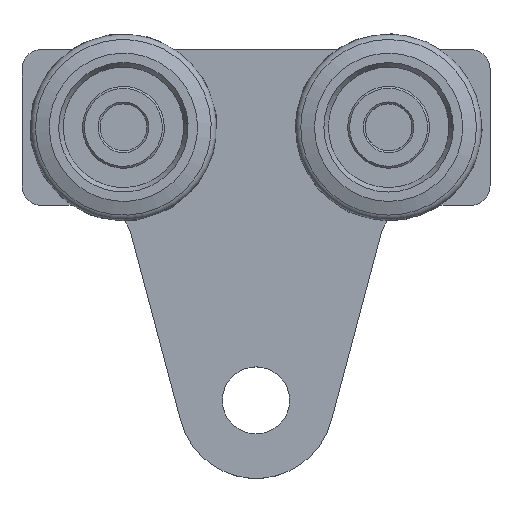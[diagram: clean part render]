
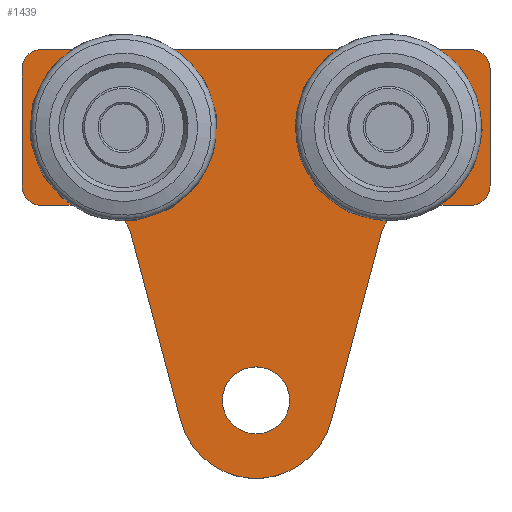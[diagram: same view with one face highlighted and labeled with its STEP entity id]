
A CAD part, top view. The second image highlights one B-rep face of the part: STEP entity #1439.
In plain terms, the highlighted planar face has unit normal (0, 0, 1).
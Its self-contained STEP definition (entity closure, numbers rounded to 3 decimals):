
#109=LINE('',#2122,#215);
#114=LINE('',#2136,#220);
#119=LINE('',#2154,#225);
#123=LINE('',#2165,#229);
#127=LINE('',#2178,#233);
#131=LINE('',#2190,#237);
#135=LINE('',#2202,#241);
#139=LINE('',#2214,#245);
#143=LINE('',#2226,#249);
#147=LINE('',#2238,#253);
#151=LINE('',#2249,#257);
#215=VECTOR('',#1683,3.36);
#220=VECTOR('',#1696,3.36);
#225=VECTOR('',#1715,3.36);
#229=VECTOR('',#1727,3.36);
#233=VECTOR('',#1739,13.313);
#237=VECTOR('',#1751,49.374);
#241=VECTOR('',#1763,49.374);
#245=VECTOR('',#1775,13.313);
#249=VECTOR('',#1787,30.);
#253=VECTOR('',#1799,110.);
#257=VECTOR('',#1811,30.);
#333=PLANE('',#1555);
#372=FACE_BOUND('',#512,.T.);
#373=FACE_BOUND('',#513,.T.);
#374=FACE_BOUND('',#514,.T.);
#420=FACE_OUTER_BOUND('',#511,.T.);
#511=EDGE_LOOP('',(#1117,#1118,#1119,#1120,#1121,#1122,#1123,#1124,#1125,
#1126,#1127,#1128,#1129,#1130));
#512=EDGE_LOOP('',(#1131));
#513=EDGE_LOOP('',(#1132,#1133,#1134,#1135));
#514=EDGE_LOOP('',(#1136,#1137,#1138,#1139));
#598=CIRCLE('',#1508,8.6);
#600=CIRCLE('',#1512,9.1);
#602=CIRCLE('',#1516,6.15);
#604=CIRCLE('',#1519,6.15);
#606=CIRCLE('',#1523,9.1);
#608=CIRCLE('',#1527,5.);
#610=CIRCLE('',#1531,10.);
#612=CIRCLE('',#1535,20.);
#614=CIRCLE('',#1539,10.);
#616=CIRCLE('',#1543,5.);
#618=CIRCLE('',#1547,5.);
#620=CIRCLE('',#1551,5.);
#671=VERTEX_POINT('',#2115);
#673=VERTEX_POINT('',#2120);
#674=VERTEX_POINT('',#2121);
#677=VERTEX_POINT('',#2129);
#679=VERTEX_POINT('',#2135);
#681=VERTEX_POINT('',#2144);
#682=VERTEX_POINT('',#2145);
#685=VERTEX_POINT('',#2153);
#687=VERTEX_POINT('',#2159);
#689=VERTEX_POINT('',#2168);
#690=VERTEX_POINT('',#2169);
#693=VERTEX_POINT('',#2177);
#695=VERTEX_POINT('',#2183);
#697=VERTEX_POINT('',#2189);
#699=VERTEX_POINT('',#2195);
#701=VERTEX_POINT('',#2201);
#703=VERTEX_POINT('',#2207);
#705=VERTEX_POINT('',#2213);
#707=VERTEX_POINT('',#2219);
#709=VERTEX_POINT('',#2225);
#711=VERTEX_POINT('',#2231);
#713=VERTEX_POINT('',#2237);
#715=VERTEX_POINT('',#2243);
#808=EDGE_CURVE('',#671,#671,#598,.T.);
#810=EDGE_CURVE('',#673,#674,#109,.T.);
#814=EDGE_CURVE('',#674,#677,#600,.T.);
#817=EDGE_CURVE('',#677,#679,#114,.T.);
#820=EDGE_CURVE('',#679,#673,#602,.T.);
#822=EDGE_CURVE('',#681,#682,#604,.T.);
#826=EDGE_CURVE('',#682,#685,#119,.T.);
#829=EDGE_CURVE('',#685,#687,#606,.T.);
#832=EDGE_CURVE('',#687,#681,#123,.T.);
#834=EDGE_CURVE('',#689,#690,#608,.T.);
#838=EDGE_CURVE('',#690,#693,#127,.T.);
#841=EDGE_CURVE('',#693,#695,#610,.T.);
#844=EDGE_CURVE('',#695,#697,#131,.T.);
#847=EDGE_CURVE('',#697,#699,#612,.T.);
#850=EDGE_CURVE('',#699,#701,#135,.T.);
#853=EDGE_CURVE('',#701,#703,#614,.T.);
#856=EDGE_CURVE('',#703,#705,#139,.T.);
#859=EDGE_CURVE('',#705,#707,#616,.T.);
#862=EDGE_CURVE('',#707,#709,#143,.T.);
#865=EDGE_CURVE('',#709,#711,#618,.T.);
#868=EDGE_CURVE('',#711,#713,#147,.T.);
#871=EDGE_CURVE('',#713,#715,#620,.T.);
#874=EDGE_CURVE('',#715,#689,#151,.T.);
#1117=ORIENTED_EDGE('',*,*,#834,.F.);
#1118=ORIENTED_EDGE('',*,*,#874,.F.);
#1119=ORIENTED_EDGE('',*,*,#871,.F.);
#1120=ORIENTED_EDGE('',*,*,#868,.F.);
#1121=ORIENTED_EDGE('',*,*,#865,.F.);
#1122=ORIENTED_EDGE('',*,*,#862,.F.);
#1123=ORIENTED_EDGE('',*,*,#859,.F.);
#1124=ORIENTED_EDGE('',*,*,#856,.F.);
#1125=ORIENTED_EDGE('',*,*,#853,.F.);
#1126=ORIENTED_EDGE('',*,*,#850,.F.);
#1127=ORIENTED_EDGE('',*,*,#847,.F.);
#1128=ORIENTED_EDGE('',*,*,#844,.F.);
#1129=ORIENTED_EDGE('',*,*,#841,.F.);
#1130=ORIENTED_EDGE('',*,*,#838,.F.);
#1131=ORIENTED_EDGE('',*,*,#808,.T.);
#1132=ORIENTED_EDGE('',*,*,#810,.T.);
#1133=ORIENTED_EDGE('',*,*,#814,.T.);
#1134=ORIENTED_EDGE('',*,*,#817,.T.);
#1135=ORIENTED_EDGE('',*,*,#820,.T.);
#1136=ORIENTED_EDGE('',*,*,#822,.T.);
#1137=ORIENTED_EDGE('',*,*,#826,.T.);
#1138=ORIENTED_EDGE('',*,*,#829,.T.);
#1139=ORIENTED_EDGE('',*,*,#832,.T.);
#1439=ADVANCED_FACE('',(#420,#372,#373,#374),#333,.T.);
#1508=AXIS2_PLACEMENT_3D('',#2116,#1677,#1678);
#1512=AXIS2_PLACEMENT_3D('',#2130,#1689,#1690);
#1516=AXIS2_PLACEMENT_3D('',#2141,#1701,#1702);
#1519=AXIS2_PLACEMENT_3D('',#2146,#1707,#1708);
#1523=AXIS2_PLACEMENT_3D('',#2160,#1720,#1721);
#1527=AXIS2_PLACEMENT_3D('',#2170,#1731,#1732);
#1531=AXIS2_PLACEMENT_3D('',#2184,#1744,#1745);
#1535=AXIS2_PLACEMENT_3D('',#2196,#1756,#1757);
#1539=AXIS2_PLACEMENT_3D('',#2208,#1768,#1769);
#1543=AXIS2_PLACEMENT_3D('',#2220,#1780,#1781);
#1547=AXIS2_PLACEMENT_3D('',#2232,#1792,#1793);
#1551=AXIS2_PLACEMENT_3D('',#2244,#1804,#1805);
#1555=AXIS2_PLACEMENT_3D('',#2252,#1815,#1816);
#1677=DIRECTION('center_axis',(0.,0.,-1.));
#1678=DIRECTION('ref_axis',(1.,0.,0.));
#1683=DIRECTION('',(-0.866,0.5,0.));
#1689=DIRECTION('center_axis',(0.,0.,-1.));
#1690=DIRECTION('ref_axis',(-0.866,-0.5,0.));
#1696=DIRECTION('',(-0.866,-0.5,0.));
#1701=DIRECTION('center_axis',(0.,0.,-1.));
#1702=DIRECTION('ref_axis',(0.808,-0.589,0.));
#1707=DIRECTION('center_axis',(0.,0.,-1.));
#1708=DIRECTION('ref_axis',(-0.808,0.589,0.));
#1715=DIRECTION('',(-0.866,0.5,0.));
#1720=DIRECTION('center_axis',(0.,0.,-1.));
#1721=DIRECTION('ref_axis',(0.866,0.5,0.));
#1727=DIRECTION('',(-0.866,-0.5,0.));
#1731=DIRECTION('center_axis',(0.,0.,-1.));
#1732=DIRECTION('ref_axis',(0.,1.,0.));
#1739=DIRECTION('',(1.,0.,0.));
#1744=DIRECTION('center_axis',(0.,0.,1.));
#1745=DIRECTION('ref_axis',(0.,1.,0.));
#1751=DIRECTION('',(0.257,0.966,0.));
#1756=DIRECTION('center_axis',(0.,0.,-1.));
#1757=DIRECTION('ref_axis',(0.966,0.257,0.));
#1763=DIRECTION('',(0.257,-0.966,0.));
#1768=DIRECTION('center_axis',(0.,0.,1.));
#1769=DIRECTION('ref_axis',(0.966,0.257,0.));
#1775=DIRECTION('',(1.,0.,0.));
#1780=DIRECTION('center_axis',(0.,0.,-1.));
#1781=DIRECTION('ref_axis',(1.,0.,0.));
#1787=DIRECTION('',(0.,-1.,0.));
#1792=DIRECTION('center_axis',(0.,0.,-1.));
#1793=DIRECTION('ref_axis',(0.,-1.,0.));
#1799=DIRECTION('',(-1.,0.,0.));
#1804=DIRECTION('center_axis',(0.,0.,-1.));
#1805=DIRECTION('ref_axis',(-1.,0.,0.));
#1811=DIRECTION('',(0.,1.,0.));
#1815=DIRECTION('center_axis',(0.,0.,1.));
#1816=DIRECTION('ref_axis',(1.,0.,0.));
#2115=CARTESIAN_POINT('',(8.6,70.,8.));
#2116=CARTESIAN_POINT('Origin',(0.,70.,8.));
#2120=CARTESIAN_POINT('',(-38.971,3.622,8.));
#2121=CARTESIAN_POINT('',(-41.88,5.301,8.));
#2122=CARTESIAN_POINT('',(-28.051,-2.683,8.));
#2129=CARTESIAN_POINT('',(-26.12,5.301,8.));
#2130=CARTESIAN_POINT('Origin',(-34.,0.75,8.));
#2135=CARTESIAN_POINT('',(-29.029,3.622,8.));
#2136=CARTESIAN_POINT('',(-12.994,12.879,8.));
#2141=CARTESIAN_POINT('Origin',(-34.,0.,8.));
#2144=CARTESIAN_POINT('',(38.971,3.622,8.));
#2145=CARTESIAN_POINT('',(29.029,3.622,8.));
#2146=CARTESIAN_POINT('Origin',(34.,0.,8.));
#2153=CARTESIAN_POINT('',(26.12,5.301,8.));
#2154=CARTESIAN_POINT('',(14.449,12.04,8.));
#2159=CARTESIAN_POINT('',(41.88,5.301,8.));
#2160=CARTESIAN_POINT('Origin',(34.,0.75,8.));
#2165=CARTESIAN_POINT('',(29.506,-1.843,8.));
#2168=CARTESIAN_POINT('',(-60.,15.,8.));
#2169=CARTESIAN_POINT('',(-55.,20.,8.));
#2170=CARTESIAN_POINT('Origin',(-55.,15.,8.));
#2177=CARTESIAN_POINT('',(-41.687,20.,8.));
#2178=CARTESIAN_POINT('',(-41.687,20.,8.));
#2183=CARTESIAN_POINT('',(-32.023,27.429,8.));
#2184=CARTESIAN_POINT('Origin',(-41.687,30.,8.));
#2189=CARTESIAN_POINT('',(-19.328,75.143,8.));
#2190=CARTESIAN_POINT('',(-19.328,75.143,8.));
#2195=CARTESIAN_POINT('',(19.328,75.143,8.));
#2196=CARTESIAN_POINT('Origin',(0.,70.,8.));
#2201=CARTESIAN_POINT('',(32.023,27.429,8.));
#2202=CARTESIAN_POINT('',(32.023,27.429,8.));
#2207=CARTESIAN_POINT('',(41.687,20.,8.));
#2208=CARTESIAN_POINT('Origin',(41.687,30.,8.));
#2213=CARTESIAN_POINT('',(55.,20.,8.));
#2214=CARTESIAN_POINT('',(55.,20.,8.));
#2219=CARTESIAN_POINT('',(60.,15.,8.));
#2220=CARTESIAN_POINT('Origin',(55.,15.,8.));
#2225=CARTESIAN_POINT('',(60.,-15.,8.));
#2226=CARTESIAN_POINT('',(60.,-15.,8.));
#2231=CARTESIAN_POINT('',(55.,-20.,8.));
#2232=CARTESIAN_POINT('Origin',(55.,-15.,8.));
#2237=CARTESIAN_POINT('',(-55.,-20.,8.));
#2238=CARTESIAN_POINT('',(-55.,-20.,8.));
#2243=CARTESIAN_POINT('',(-60.,-15.,8.));
#2244=CARTESIAN_POINT('Origin',(-55.,-15.,8.));
#2249=CARTESIAN_POINT('',(-60.,15.,8.));
#2252=CARTESIAN_POINT('Origin',(0.,20.685,8.));
